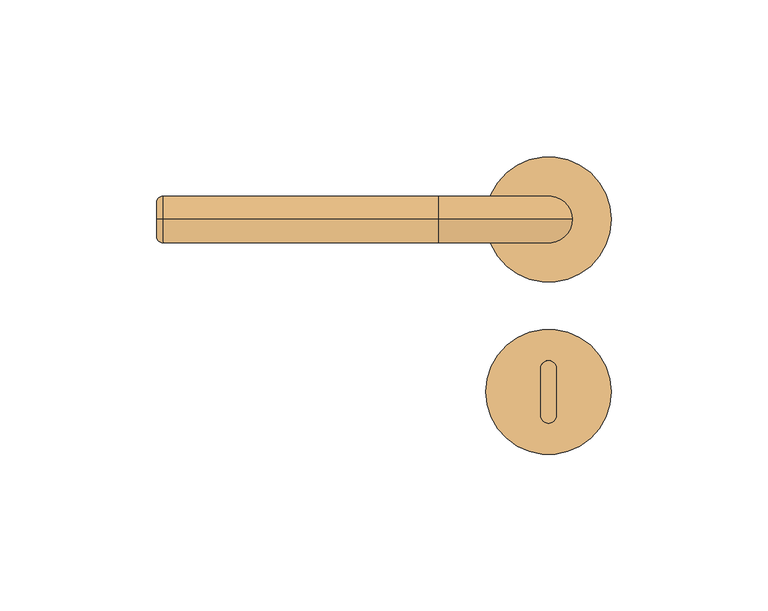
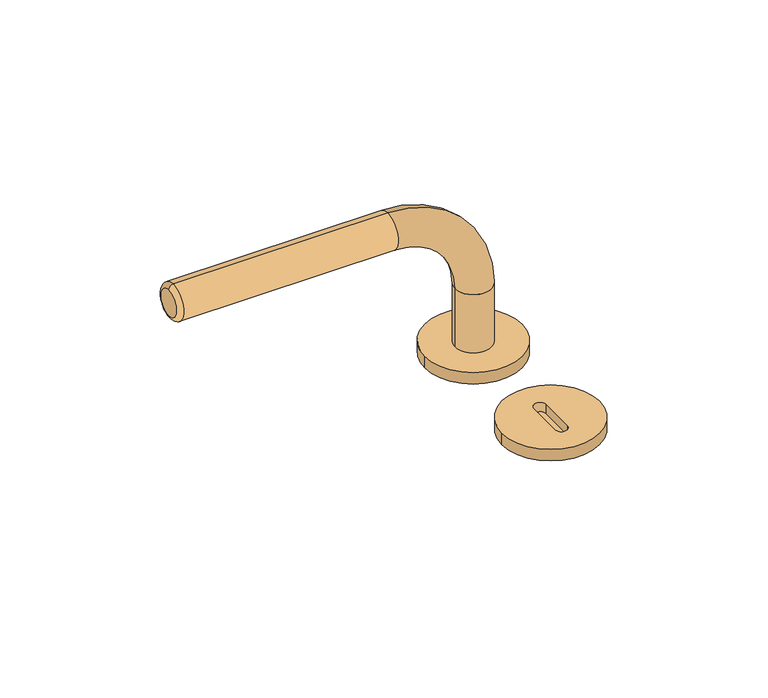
"""IFC4 building model written with IfcOpenShell, lengths in millimetres: door geometry, VERTI - kování TUPAI : ELIPTICA."""

from ifc_helpers import new_model, si_unit, point, frame, origin, origin_with_axes, origin_2d, place, context, project, spatial, polyline, circle_curve, ellipse_curve, trimmed, segment, composite_curve, outline, extrude, source, transform, mapped, element, save
from ifc_brep_helpers import plane_surface, cylinder_surface, revolved_surface, advanced_brep


def door_5600eba2(model_context):
    return source(origin(), model_context, "Body", "SolidModel", [
        advanced_brep(
        [(7.5, 0.0, 0.0), (-7.5, 0.0, 0.0), (7.5, 0.0, 30.0), (-7.5, 0.0, 30.0), (-35.0, 0.0, 72.5), (-35.0, 0.0, 57.5), (-125.0, 0.0, 59.5), (-125.0, 0.0, 70.5), (-123.0, 0.0, 72.5), (-123.0, 0.0, 57.5)],
        [
            (0, 1, circle_curve(frame((0.0, 0.0, 0.0), z_axis=(0.0, 0.0, -1.0), x_axis=(-1.0, 0.0, 0.0)), 7.5)),
            (1, 0, circle_curve(frame((0.0, 0.0, 0.0), z_axis=(0.0, 0.0, -1.0), x_axis=(-1.0, 0.0, 0.0)), 7.5)),
            (0, 2),
            (2, 3, circle_curve(frame((0.0, 0.0, 30.0), z_axis=(0.0, 0.0, -1.0), x_axis=(-1.0, 0.0, 0.0)), 7.5)),
            (3, 1),
            (3, 2, circle_curve(frame((0.0, 0.0, 30.0), z_axis=(0.0, 0.0, -1.0), x_axis=(-1.0, 0.0, 0.0)), 7.5)),
            (2, 4, circle_curve(frame((-35.0, 0.0, 30.0), z_axis=(0.0, -1.0, 0.0), x_axis=(1.0, 0.0, 0.0)), 42.5)),
            (4, 5, circle_curve(frame((-35.0, 0.0, 65.0), z_axis=(1.0, 0.0, 0.0), x_axis=(0.0, 0.0, -1.0)), 7.5)),
            (5, 3, circle_curve(frame((-35.0, 0.0, 30.0), z_axis=(0.0, 1.0, 0.0), x_axis=(1.0, 0.0, 0.0)), 27.5)),
            (5, 4, circle_curve(frame((-35.0, 0.0, 65.0), z_axis=(1.0, 0.0, 0.0), x_axis=(0.0, 0.0, -1.0)), 7.5)),
            (6, 7, circle_curve(frame((-125.0, 0.0, 65.0), z_axis=(-1.0, 0.0, 0.0), x_axis=(0.0, 0.0, 1.0)), 5.5)),
            (7, 6, circle_curve(frame((-125.0, 0.0, 65.0), z_axis=(-1.0, 0.0, 0.0), x_axis=(0.0, 0.0, -1.0)), 5.5)),
            (4, 8),
            (8, 9, circle_curve(frame((-123.0, 0.0, 65.0), z_axis=(1.0, 0.0, 0.0), x_axis=(0.0, 0.0, -1.0)), 7.5)),
            (9, 5),
            (9, 8, circle_curve(frame((-123.0, 0.0, 65.0), z_axis=(1.0, 0.0, 0.0), x_axis=(0.0, 0.0, -1.0)), 7.5)),
            (6, 9, circle_curve(frame((-123.0, 0.0, 59.5), z_axis=(0.0, -1.0, 0.0), x_axis=(0.0, 0.0, 1.0)), 2.0)),
            (8, 7, circle_curve(frame((-123.0, 0.0, 70.5), z_axis=(0.0, -1.0, 0.0), x_axis=(0.0, 0.0, -1.0)), 2.0)),
        ],
        [
            plane_surface(frame((0.0, 0.0, 0.0), z_axis=(0.0, 0.0, -1.0), x_axis=(0.0, -1.0, 0.0))),
            cylinder_surface(frame((0.0, 0.0, 0.0), z_axis=(0.0, 0.0, -1.0), x_axis=(-1.0, 0.0, 0.0)), 7.5),
            revolved_surface(trimmed(ellipse_curve(frame((0.0, 0.0, 30.0), z_axis=(0.0, 0.0, -1.0), x_axis=(-1.0, 0.0, 0.0)), 7.5, 7.5), [point((7.5, 0.0, 30.0))], [point((-7.5, 0.0, 30.0))], True, "CARTESIAN"), (-35.0, 0.0, 30.0), (0.0, -1.0, 0.0)),
            revolved_surface(trimmed(ellipse_curve(frame((0.0, 0.0, 30.0), z_axis=(0.0, 0.0, -1.0), x_axis=(-1.0, 0.0, 0.0)), 7.5, 7.5), [point((-7.5, 0.0, 30.0))], [point((7.5, 0.0, 30.0))], True, "CARTESIAN"), (-35.0, 0.0, 30.0), (0.0, -1.0, 0.0)),
            plane_surface(frame((-125.0, 0.0, 65.0), z_axis=(-1.0, 0.0, 0.0), x_axis=(0.0, -1.0, 0.0))),
            cylinder_surface(frame((-35.0, 0.0, 65.0), z_axis=(1.0, 0.0, 0.0), x_axis=(0.0, 0.0, -1.0)), 7.5),
            revolved_surface(trimmed(ellipse_curve(frame((-123.0, 0.0, 70.5), z_axis=(0.0, 1.0, 0.0), x_axis=(0.0, 0.0, -1.0)), 2.0, 2.0), [point((-125.0, 0.0, 70.5))], [point((-123.0, 0.0, 72.5))], True, "CARTESIAN"), (-125.0, 0.0, 65.0), (1.0, 0.0, 0.0)),
            revolved_surface(trimmed(ellipse_curve(frame((-123.0, 0.0, 59.5), z_axis=(0.0, -1.0, 0.0), x_axis=(0.0, 0.0, 1.0)), 2.0, 2.0), [point((-125.0, 0.0, 59.5))], [point((-123.0, 0.0, 57.5))], True, "CARTESIAN"), (-125.0, 0.0, 65.0), (1.0, 0.0, 0.0)),
        ],
        [
            (0, [[1, 2]]),
            (1, [[-1, 3, 4, 5]]),
            (1, [[-2, -5, 6, -3]]),
            (2, [[-4, 7, 8, 9]]),
            (3, [[-6, -9, 10, -7]]),
            (4, [[11, 12]]),
            (5, [[-8, 13, 14, 15]]),
            (5, [[-10, -15, 16, -13]]),
            (6, [[17, -14, 18, -11]]),
            (7, [[-17, -12, -18, -16]]),
        ],
    ),
        advanced_brep(
        [(-20.0, -55.0, 5.0), (20.0, -55.0, 5.0), (-2.5, -62.4770958, 5.0), (-2.5, -47.5, 5.0), (2.5, -47.5, 5.0), (2.5, -62.4770958, 5.0), (-20.0, -55.0, 0.0), (20.0, -55.0, 0.0), (2.5, -47.5, 1.0), (2.5, -62.4770958, 1.0), (-2.5, -62.4770958, 1.0), (-2.5, -47.5, 1.0), (0.0, -45.0, 1.0)],
        [
            (0, 1, circle_curve(frame((0.0, -55.0, 5.0), z_axis=(0.0, 0.0, 1.0), x_axis=(1.0, 0.0, 0.0)), 20.0)),
            (1, 0, circle_curve(frame((0.0, -55.0, 5.0), z_axis=(0.0, 0.0, 1.0), x_axis=(1.0, 0.0, 0.0)), 20.0)),
            (2, 3),
            (3, 4, circle_curve(frame((0.0, -47.5, 5.0), z_axis=(0.0, 0.0, -1.0), x_axis=(1.0, 0.0, 0.0)), 2.5)),
            (4, 5),
            (5, 2, circle_curve(frame((0.0, -62.4770958, 5.0), z_axis=(0.0, 0.0, -1.0), x_axis=(1.0, 0.0, 0.0)), 2.5)),
            (6, 7, circle_curve(frame((0.0, -55.0, 0.0), z_axis=(0.0, 0.0, -1.0), x_axis=(1.0, 0.0, 0.0)), 20.0)),
            (7, 6, circle_curve(frame((0.0, -55.0, 0.0), z_axis=(0.0, 0.0, -1.0), x_axis=(1.0, 0.0, 0.0)), 20.0)),
            (0, 6),
            (7, 1),
            (4, 8),
            (8, 9),
            (9, 5),
            (2, 10),
            (10, 11),
            (11, 3),
            (8, 12, circle_curve(frame((0.0, -47.5, 1.0), z_axis=(0.0, 0.0, 1.0), x_axis=(1.0, 0.0, 0.0)), 2.5)),
            (12, 11, circle_curve(frame((0.0, -47.5, 1.0), z_axis=(0.0, 0.0, 1.0), x_axis=(1.0, 0.0, 0.0)), 2.5)),
            (10, 9, circle_curve(frame((0.0, -62.4770958, 1.0), z_axis=(0.0, 0.0, 1.0), x_axis=(1.0, 0.0, 0.0)), 2.5)),
        ],
        [
            plane_surface(frame((20.0, -55.0, 5.0), z_axis=(0.0, 0.0, 1.0), x_axis=(0.0, 1.0, 0.0))),
            plane_surface(frame((20.0, -55.0, 0.0), z_axis=(0.0, 0.0, -1.0), x_axis=(0.0, -1.0, 0.0))),
            cylinder_surface(frame((0.0, -55.0, 0.0), z_axis=(0.0, 0.0, 1.0), x_axis=(1.0, 0.0, 0.0)), 20.0),
            plane_surface(frame((2.5, -47.5, 5.0), z_axis=(-1.0, 0.0, 0.0), x_axis=(0.0, 0.0, -1.0))),
            plane_surface(frame((-2.5, -62.4770958, 5.0), z_axis=(1.0, 0.0, 0.0), x_axis=(0.0, 0.0, -1.0))),
            plane_surface(frame((-2.5, -45.0, 1.0), z_axis=(0.0, 0.0, 1.0), x_axis=(-1.0, 0.0, 0.0))),
            revolved_surface(polyline([(2.5, -47.5, 1.0), (2.5, -47.5, 5.0)]), (0.0, -47.5, 0.0), (0.0, 0.0, -1.0)),
            revolved_surface(polyline([(2.5, -62.4770958, 1.0), (2.5, -62.4770958, 5.0)]), (0.0, -62.4770958, 0.0), (0.0, 0.0, -1.0)),
        ],
        [
            (0, [[1, 2], [3, 4, 5, 6]]),
            (1, [[7, 8]]),
            (2, [[-1, 9, -8, 10]]),
            (2, [[-2, -10, -7, -9]]),
            (3, [[-5, 11, 12, 13]]),
            (4, [[-3, 14, 15, 16]]),
            (5, [[-12, 17, 18, -15, 19]]),
            (6, [[-4, -16, -18, -17, -11]]),
            (7, [[-6, -13, -19, -14]]),
        ],
    ),
        extrude(outline(composite_curve([segment(trimmed(circle_curve(origin_2d(), 20.0), [point((-20.0, 0.0))], [point((20.0, 0.0))], False, "CARTESIAN"), True, "CONTINUOUS"), segment(trimmed(circle_curve(origin_2d(), 20.0), [point((20.0, 0.0))], [point((-20.0, 0.0))], False, "CARTESIAN"), True, "CONTINUOUS")], self_intersect=False)), origin_with_axes(), (0.0, 0.0, 1.0), 5.0),
    ])


if __name__ == "__main__":
    model = new_model("IFC4")
    model_context = context("Model", 3, world=origin())
    ifc_project = project(units=[si_unit("LENGTHUNIT", "METRE", prefix="MILLI")], contexts=[model_context])
    site = spatial("IfcSite", under=ifc_project)
    building = spatial("IfcBuilding", under=site)
    placement = place(None, origin())
    door_shape = door_5600eba2(model_context)
    element("IfcDoor", 1, ObjectType="VERTI - kování TUPAI : ELIPTICA", at=placement, inside=building, context=model_context, shape_type="MappedRepresentation", body=[
        mapped(door_shape, transform((0.0, 0.0, 0.0), x_axis=(1.0, 0.0, 0.0), y_axis=(0.0, 1.0, 0.0), z_axis=(0.0, 0.0, 1.0))),
    ])
    save(model, "model.ifc")
